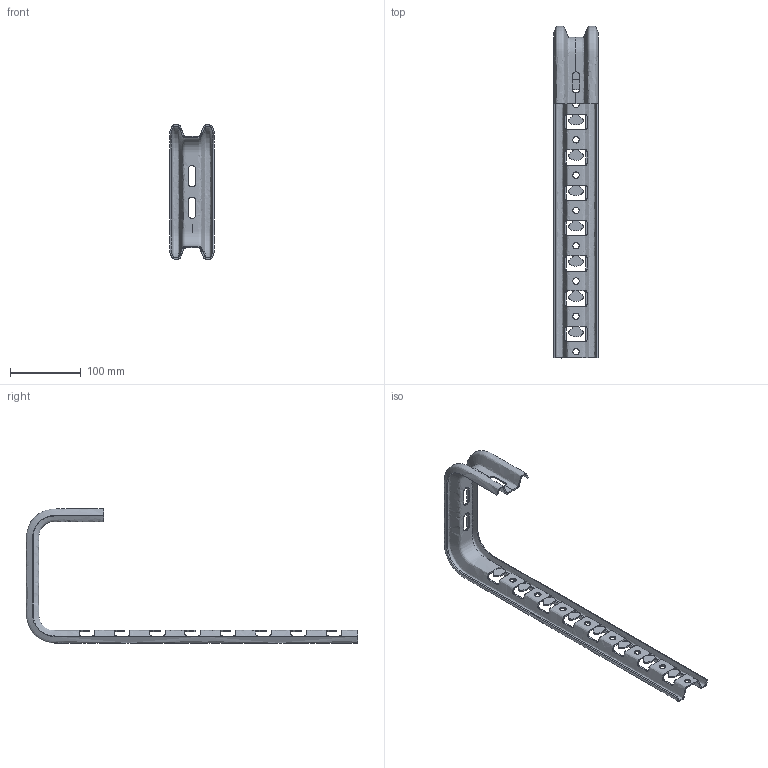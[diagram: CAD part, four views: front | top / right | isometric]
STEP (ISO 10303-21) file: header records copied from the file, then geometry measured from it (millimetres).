
FILE_DESCRIPTION(/* description */ (''),/* implementation_level */ '2;1');
FILE_NAME(/* name */ 'NZMC400',/* time_stamp */ '2012-11-29T22:29:19+01:00',/* author */ (''),/* organization */ (''),/* preprocessor_version */ 'ST-DEVELOPER v10',/* originating_system */ '',/* authorisation */ '');
FILE_SCHEMA (('AUTOMOTIVE_DESIGN_CC2'));
Length unit declared in the file: millimetre
Products named in the file (1): 1
Bounding box: 62.44 x 470.02 x 190.04 mm (x, y, z)
Surface area: 123833.4 mm2 (no closed solid volume)
Topology: 0 solids, 94 shells, 102 faces, 654 edges, 637 vertices
Faces by surface type: bspline 67, plane 35
Entity records: 29820 total; most frequent: CARTESIAN_POINT 25952, ORIENTED_EDGE 672, EDGE_CURVE 655, VERTEX_POINT 638, B_SPLINE_CURVE_WITH_KNOTS 493, EDGE_LOOP 124, ADVANCED_FACE 101, FACE_OUTER_BOUND 101
